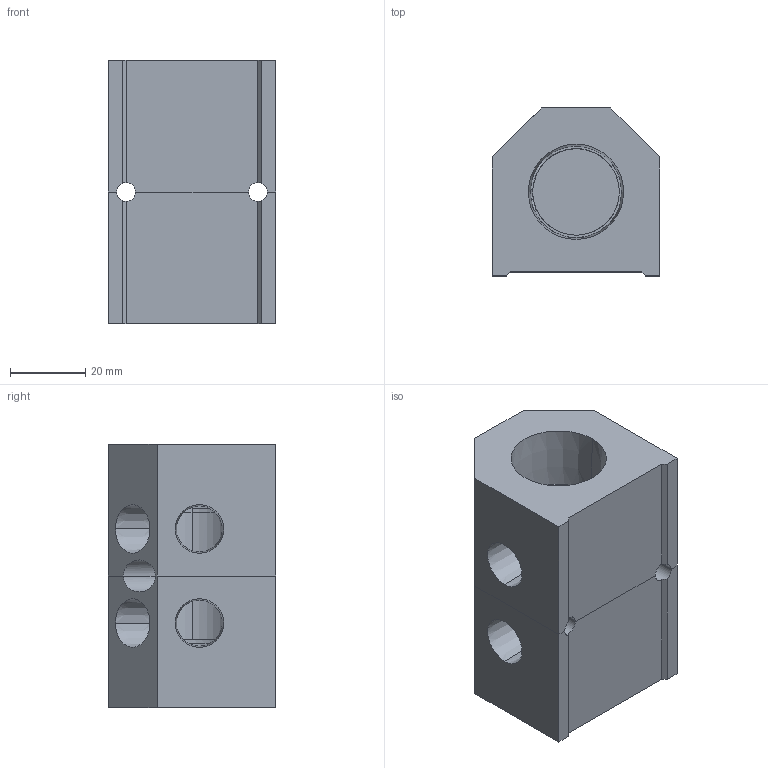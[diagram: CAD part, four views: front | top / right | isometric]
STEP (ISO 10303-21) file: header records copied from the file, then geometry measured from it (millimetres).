
FILE_DESCRIPTION (( 'STEP AP214' ), '1' );
FILE_NAME ('ALM2AB-N4N12-70RB.step', '2022-02-06T14:18:27', ( '' ), ( '' ), 'SwSTEP 2.0', 'SolidWorks 2020', '' );
FILE_SCHEMA (( 'AUTOMOTIVE_DESIGN' ));
Length unit declared in the file: millimetre
Products named in the file (1): ALM2AB-N4N12-70RB
Bounding box: 44.5 x 44.5 x 70 mm (x, y, z)
Volume: 86402.8 mm3; surface area: 24680.6 mm2
Topology: 2 solids, 2 shells, 326 faces, 872 edges, 580 vertices
Faces by surface type: plane 235, bspline 51, cylinder 23, cone 17
Entity records: 16838 total; most frequent: CARTESIAN_POINT 6084, ORIENTED_EDGE 1744, DIRECTION 1320, EDGE_CURVE 872, LINE 652, VECTOR 652, VERTEX_POINT 580, EDGE_LOOP 364
